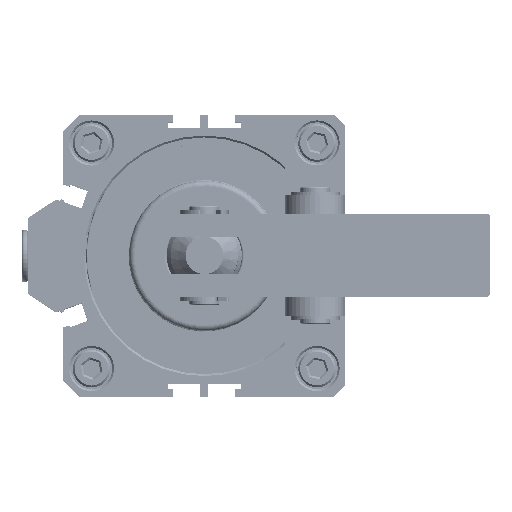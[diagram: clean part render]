
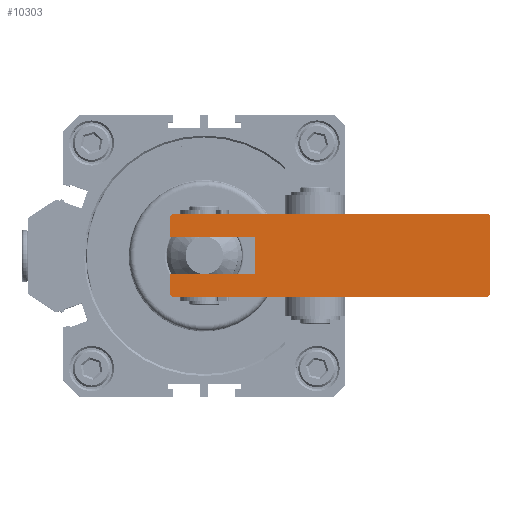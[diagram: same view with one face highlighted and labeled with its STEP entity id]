
A CAD part, top view. The second image highlights one B-rep face of the part: STEP entity #10303.
In plain terms, the highlighted planar face has unit normal (0, 0, 1).
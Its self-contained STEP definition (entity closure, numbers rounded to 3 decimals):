
#838=PLANE('',#11660);
#1436=LINE('',#45319,#2077);
#1440=LINE('',#45326,#2081);
#1443=LINE('',#45332,#2084);
#1446=LINE('',#45338,#2087);
#1449=LINE('',#45344,#2090);
#1452=LINE('',#45350,#2093);
#1455=LINE('',#45356,#2096);
#1458=LINE('',#45362,#2099);
#1461=LINE('',#45368,#2102);
#1464=LINE('',#45374,#2105);
#1467=LINE('',#45380,#2108);
#1469=LINE('',#45383,#2110);
#2077=VECTOR('',#14435,1000.);
#2081=VECTOR('',#14441,1000.);
#2084=VECTOR('',#14446,1000.);
#2087=VECTOR('',#14451,1000.);
#2090=VECTOR('',#14456,1000.);
#2093=VECTOR('',#14461,1000.);
#2096=VECTOR('',#14466,1000.);
#2099=VECTOR('',#14471,1000.);
#2102=VECTOR('',#14476,1000.);
#2105=VECTOR('',#14481,1000.);
#2108=VECTOR('',#14486,1000.);
#2110=VECTOR('',#14490,1000.);
#2878=FACE_OUTER_BOUND('',#3505,.T.);
#3505=EDGE_LOOP('',(#9588,#9589,#9590,#9591,#9592,#9593,#9594,#9595,#9596,
#9597,#9598,#9599));
#5112=VERTEX_POINT('',#45316);
#5113=VERTEX_POINT('',#45318);
#5115=VERTEX_POINT('',#45324);
#5117=VERTEX_POINT('',#45330);
#5119=VERTEX_POINT('',#45336);
#5121=VERTEX_POINT('',#45342);
#5123=VERTEX_POINT('',#45348);
#5125=VERTEX_POINT('',#45354);
#5127=VERTEX_POINT('',#45360);
#5129=VERTEX_POINT('',#45366);
#5131=VERTEX_POINT('',#45372);
#5133=VERTEX_POINT('',#45378);
#6603=EDGE_CURVE('',#5113,#5112,#1436,.T.);
#6607=EDGE_CURVE('',#5112,#5115,#1440,.T.);
#6610=EDGE_CURVE('',#5115,#5117,#1443,.T.);
#6613=EDGE_CURVE('',#5117,#5119,#1446,.T.);
#6616=EDGE_CURVE('',#5119,#5121,#1449,.T.);
#6619=EDGE_CURVE('',#5121,#5123,#1452,.T.);
#6622=EDGE_CURVE('',#5123,#5125,#1455,.T.);
#6625=EDGE_CURVE('',#5125,#5127,#1458,.T.);
#6628=EDGE_CURVE('',#5127,#5129,#1461,.T.);
#6631=EDGE_CURVE('',#5129,#5131,#1464,.T.);
#6634=EDGE_CURVE('',#5131,#5133,#1467,.T.);
#6636=EDGE_CURVE('',#5133,#5113,#1469,.T.);
#9588=ORIENTED_EDGE('',*,*,#6603,.T.);
#9589=ORIENTED_EDGE('',*,*,#6607,.T.);
#9590=ORIENTED_EDGE('',*,*,#6610,.T.);
#9591=ORIENTED_EDGE('',*,*,#6613,.T.);
#9592=ORIENTED_EDGE('',*,*,#6616,.T.);
#9593=ORIENTED_EDGE('',*,*,#6619,.T.);
#9594=ORIENTED_EDGE('',*,*,#6622,.T.);
#9595=ORIENTED_EDGE('',*,*,#6625,.T.);
#9596=ORIENTED_EDGE('',*,*,#6628,.T.);
#9597=ORIENTED_EDGE('',*,*,#6631,.T.);
#9598=ORIENTED_EDGE('',*,*,#6634,.T.);
#9599=ORIENTED_EDGE('',*,*,#6636,.T.);
#10303=ADVANCED_FACE('',(#2878),#838,.F.);
#11660=AXIS2_PLACEMENT_3D('',#45384,#14491,#14492);
#14435=DIRECTION('',(1.,0.,0.));
#14441=DIRECTION('',(0.707,0.707,0.));
#14446=DIRECTION('',(0.,1.,0.));
#14451=DIRECTION('',(-0.707,0.707,0.));
#14456=DIRECTION('',(-1.,0.,0.));
#14461=DIRECTION('',(-0.707,-0.707,0.));
#14466=DIRECTION('',(0.,-1.,0.));
#14471=DIRECTION('',(1.,0.,0.));
#14476=DIRECTION('',(0.,-1.,0.));
#14481=DIRECTION('',(-1.,0.,0.));
#14486=DIRECTION('',(0.,-1.,0.));
#14490=DIRECTION('',(0.707,-0.707,0.));
#14491=DIRECTION('center_axis',(0.,0.,-1.));
#14492=DIRECTION('ref_axis',(-1.,0.,0.));
#45316=CARTESIAN_POINT('',(-5050.509,3919.916,22.));
#45318=CARTESIAN_POINT('',(-5134.509,3919.916,22.));
#45319=CARTESIAN_POINT('',(-5134.509,3919.916,22.));
#45324=CARTESIAN_POINT('',(-5050.009,3920.416,22.));
#45326=CARTESIAN_POINT('',(-5050.509,3919.916,22.));
#45330=CARTESIAN_POINT('',(-5050.009,3941.416,22.));
#45332=CARTESIAN_POINT('',(-5050.009,3941.416,22.));
#45336=CARTESIAN_POINT('',(-5050.509,3941.916,22.));
#45338=CARTESIAN_POINT('',(-5050.509,3941.916,22.));
#45342=CARTESIAN_POINT('',(-5134.509,3941.916,22.));
#45344=CARTESIAN_POINT('',(-5134.509,3941.916,22.));
#45348=CARTESIAN_POINT('',(-5135.009,3941.416,22.));
#45350=CARTESIAN_POINT('',(-5135.009,3941.416,22.));
#45354=CARTESIAN_POINT('',(-5135.009,3935.916,22.));
#45356=CARTESIAN_POINT('',(-5135.009,3935.916,22.));
#45360=CARTESIAN_POINT('',(-5112.509,3935.916,22.));
#45362=CARTESIAN_POINT('',(-5135.009,3935.916,22.));
#45366=CARTESIAN_POINT('',(-5112.509,3925.916,22.));
#45368=CARTESIAN_POINT('',(-5112.509,3925.916,22.));
#45372=CARTESIAN_POINT('',(-5135.009,3925.916,22.));
#45374=CARTESIAN_POINT('',(-5135.009,3925.916,22.));
#45378=CARTESIAN_POINT('',(-5135.009,3920.416,22.));
#45380=CARTESIAN_POINT('',(-5135.009,3920.416,22.));
#45383=CARTESIAN_POINT('',(-5135.009,3920.416,22.));
#45384=CARTESIAN_POINT('Origin',(-5050.009,3919.916,22.));
